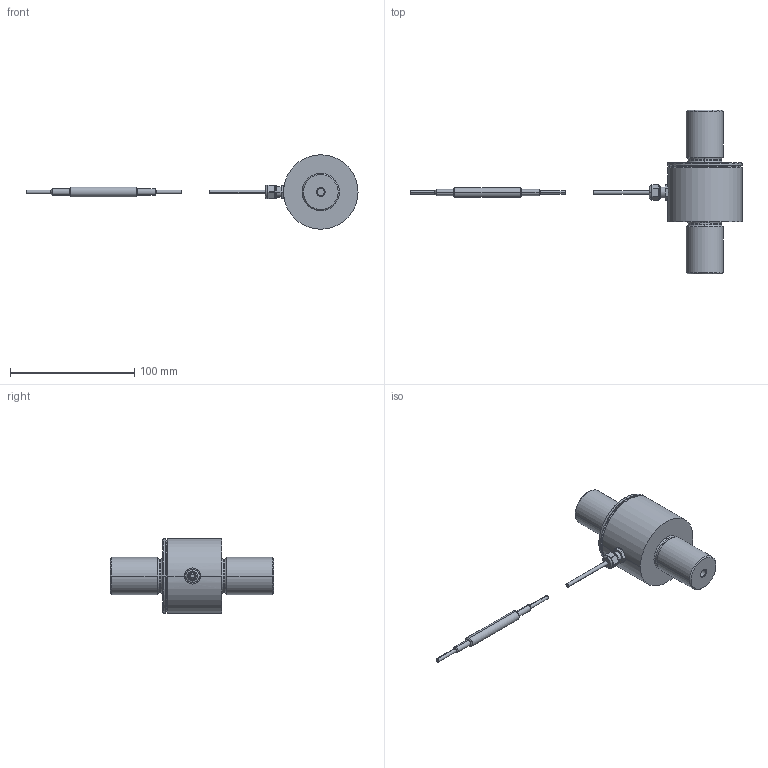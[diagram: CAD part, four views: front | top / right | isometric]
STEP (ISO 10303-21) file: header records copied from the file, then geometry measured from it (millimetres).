
FILE_DESCRIPTION(('STEP AP203'),'1');
FILE_NAME('C:/TPO v2/SharedFS/Outgoing/burster_8431-6100-v015_4xznltdkgxsre4pqzw30qpjf2.stp','2013-08-27T17:21:30',('TraceParts'),('TraceParts S.A.'),'XStep 1.0',' ',' ');
FILE_SCHEMA(('CONFIG_CONTROL_DESIGN'));
Length unit declared in the file: millimetre
Products named in the file (2): 1; 2
Bounding box: 267.5 x 132 x 60 mm (x, y, z)
Volume: 195003.6 mm3; surface area: 28580.4 mm2
Topology: 2 solids, 4 shells, 151 faces, 342 edges, 216 vertices
Faces by surface type: cylinder 58, plane 43, cone 28, torus 22
Entity records: 4445 total; most frequent: DIRECTION 852, CARTESIAN_POINT 781, ORIENTED_EDGE 684, AXIS2_PLACEMENT_3D 362, EDGE_CURVE 342, VERTEX_POINT 216, CIRCLE 209, EDGE_LOOP 170
